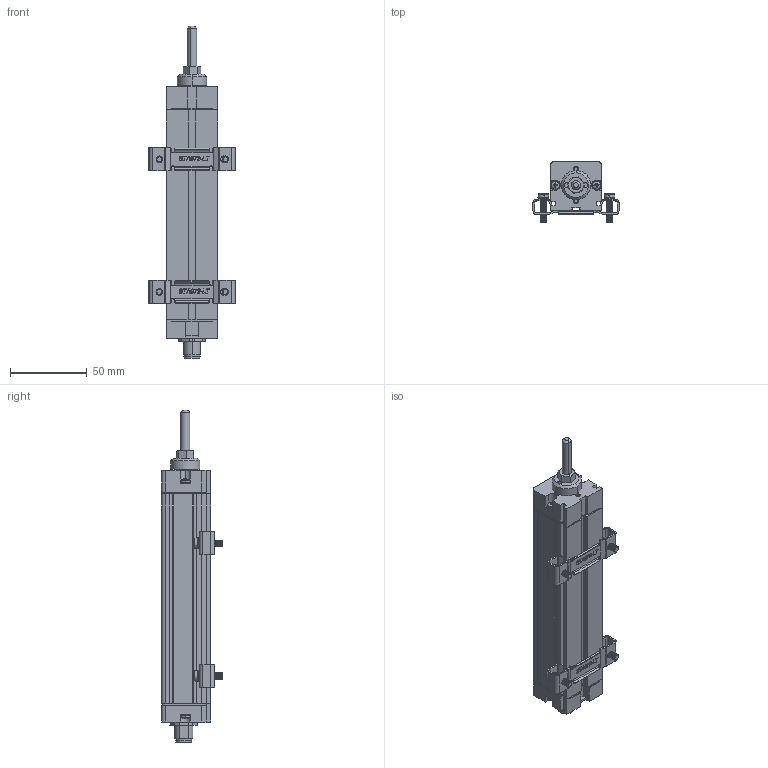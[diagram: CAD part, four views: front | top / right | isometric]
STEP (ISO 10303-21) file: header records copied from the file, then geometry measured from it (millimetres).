
FILE_DESCRIPTION (( 'STEP AP203' ), '1' );
FILE_NAME ('LT67-0100.STEP', '2012-03-27T12:12:46', ( 'User' ), ( '' ), 'SwSTEP 2.0', 'SolidWorks 2012', '' );
FILE_SCHEMA (( 'CONFIG_CONTROL_DESIGN' ));
Length unit declared in the file: millimetre
Products named in the file (14): LT67-0100; CON338X; TES044X; ANE014X; TES220X; GHI009X; MIM862X_MIM862; MIM510X_DIN 6905-3.6-FSt; MIM895X_ISO 1207 - M4 x 16 --- 16S; STA072X; MIM203X_MIM203; Albero; Guarnizione; Custodia
Assembly tree (27 placements, depth 2):
  LT67-0100
    Custodia
    Guarnizione  x2
    Albero
    MIM203X_MIM203
    STA072X  x2
    MIM895X_ISO 1207 - M4 x 16 --- 16S  x4
    MIM510X_DIN 6905-3.6-FSt  x4
    MIM862X_MIM862  x4
    GHI009X
    TES220X
    ANE014X  x4
    TES044X
    CON338X
Bounding box: 56 x 39.7 x 216.17 mm (x, y, z)
Volume: 167939.5 mm3; surface area: 53597.9 mm2
Topology: 27 solids, 27 shells, 2236 faces, 5728 edges, 3579 vertices
Faces by surface type: cone 806, plane 642, cylinder 617, bspline 110, torus 49, sphere 12
Entity records: 32720 total; most frequent: CARTESIAN_POINT 7807, DIRECTION 4947, ORIENTED_EDGE 4780, EDGE_CURVE 2390, AXIS2_PLACEMENT_3D 1819, VERTEX_POINT 1497, LINE 1309, VECTOR 1309
